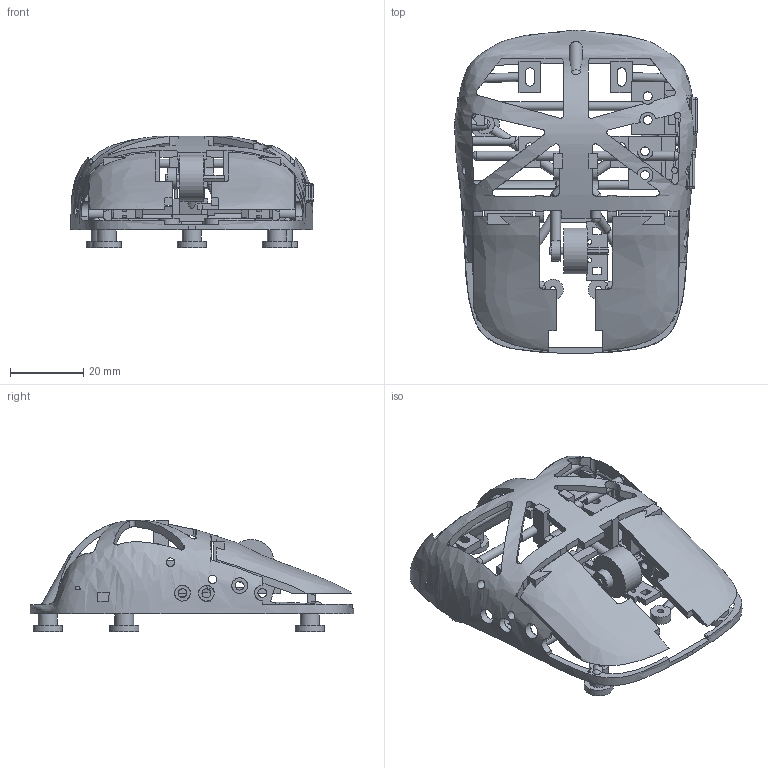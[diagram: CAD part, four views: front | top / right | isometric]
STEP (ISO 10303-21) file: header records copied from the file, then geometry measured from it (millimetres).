
FILE_DESCRIPTION(('Open CASCADE Model'),'2;1');
FILE_NAME('Open CASCADE Shape Model','2026-10-16T20:12:48',('Author'),( 'Open CASCADE'),'Open CASCADE STEP processor 7.9','Open CASCADE 7.9' ,'Unknown');
FILE_SCHEMA(('AUTOMOTIVE_DESIGN { 1 0 10303 214 1 1 1 1 }'));
Length unit declared in the file: millimetre
Products named in the file (10): Open CASCADE STEP translator 7.9 5; Open CASCADE STEP translator 7.9 5.1; Open CASCADE STEP translator 7.9 5.2; Open CASCADE STEP translator 7.9 5.3; Open CASCADE STEP translator 7.9 5.4; Open CASCADE STEP translator 7.9 5.5; Open CASCADE STEP translator 7.9 5.6; Open CASCADE STEP translator 7.9 5.7; Open CASCADE STEP translator 7.9 5.8; Open CASCADE STEP translator 7.9 5.9
Assembly tree (9 placements, depth 2):
  Open CASCADE STEP translator 7.9 5
    Open CASCADE STEP translator 7.9 5.1
    Open CASCADE STEP translator 7.9 5.2
    Open CASCADE STEP translator 7.9 5.3
    Open CASCADE STEP translator 7.9 5.4
    Open CASCADE STEP translator 7.9 5.5
    Open CASCADE STEP translator 7.9 5.6
    Open CASCADE STEP translator 7.9 5.7
    Open CASCADE STEP translator 7.9 5.8
    Open CASCADE STEP translator 7.9 5.9
Bounding box: 66.19 x 88.24 x 30.48 mm (x, y, z)
Volume: 19342.9 mm3; surface area: 25905.3 mm2
Topology: 9 solids, 9 shells, 1016 faces, 3010 edges, 1949 vertices
Faces by surface type: plane 715, cylinder 230, sphere 63, bspline 8
Full cylindrical faces by diameter (mm): 1.25 x3, 1.7 x2, 1.72 x2, 2 x1, 2.35 x13, 2.4 x28, 2.5 x3, 2.6 x11, 2.7 x7, 3.2 x2, 4.3 x3, 5.2 x6, 5.3 x2, 8 x5, 12.5 x1
Entity records: 232632 total; most frequent: CARTESIAN_POINT 177104, DIRECTION 9299, ORIENTED_EDGE 5942, PCURVE 5942, DEFINITIONAL_REPRESENTATION 5942, LINE 5766, VECTOR 5766, EDGE_CURVE 2971
